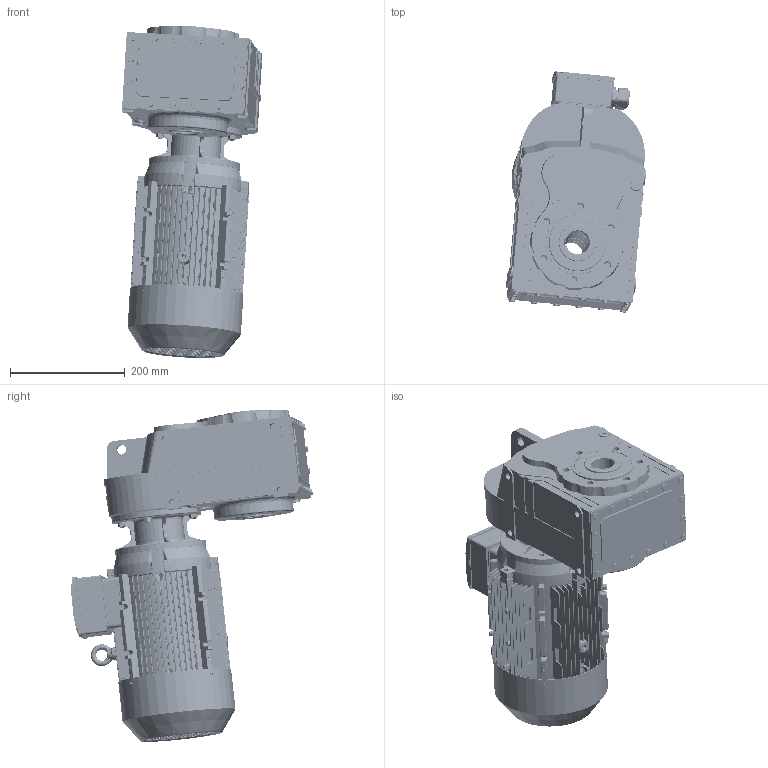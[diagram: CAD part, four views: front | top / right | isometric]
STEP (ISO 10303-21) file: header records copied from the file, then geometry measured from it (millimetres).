
FILE_DESCRIPTION (( 'STEP AP203' ), '1' );
FILE_NAME ('DV_373_0_MX3-100L.STEP', '2018-11-15T11:40:00', ( '' ), ( '' ), 'SwSTEP 2.0', 'SolidWorks 2012', '' );
FILE_SCHEMA (( 'CONFIG_CONTROL_DESIGN' ));
Products named in the file (16): MX3-100L_B14; IE3 100 B14 flange; DV_373_0_MX3-100L; plain parallel keys_GB_CONNECTING_PIECE_KEYS_CSK 8X50; IE3 100 fan cover; IE3 100 fan; IE3 100 shaft cover; IE3 100 Shaft; IE3 100 terminal box base; eyebolts gb_GB_FASTENER_SCREWS_FRS M8-N; IE3 100 terminal box cover; IE3 100 casing; ML57A_Varsayìlan; IE3 100 B3 Shield; 23100B14_Varsayìlan; D373_Varsayìlan
Assembly tree (16 placements, depth 3):
  DV_373_0_MX3-100L
    D373_Varsayìlan
    23100B14_Varsayìlan
    ML57A_Varsayìlan
    MX3-100L_B14
      IE3 100 casing
      IE3 100 B3 Shield
      IE3 100 Shaft
      eyebolts gb_GB_FASTENER_SCREWS_FRS M8-N
      IE3 100 terminal box base
      IE3 100 terminal box cover
      IE3 100 fan
      IE3 100 fan cover
      plain parallel keys_GB_CONNECTING_PIECE_KEYS_CSK 8X50
      IE3 100 shaft cover  x2
      IE3 100 B14 flange
Bounding box: 244.77 x 421.21 x 579.23 mm (x, y, z)
Volume: 11522478.2 mm3; surface area: 1570365.9 mm2
Topology: 16 solids, 18 shells, 5941 faces, 15139 edges, 9214 vertices
Faces by surface type: plane 1914, bspline 1579, cylinder 1416, cone 592, torus 328, sphere 112
Entity records: 239403 total; most frequent: CARTESIAN_POINT 108826, ORIENTED_EDGE 29612, DIRECTION 23177, EDGE_CURVE 14806, VERTEX_POINT 9106, AXIS2_PLACEMENT_3D 8589, EDGE_LOOP 6372, VECTOR 5999
